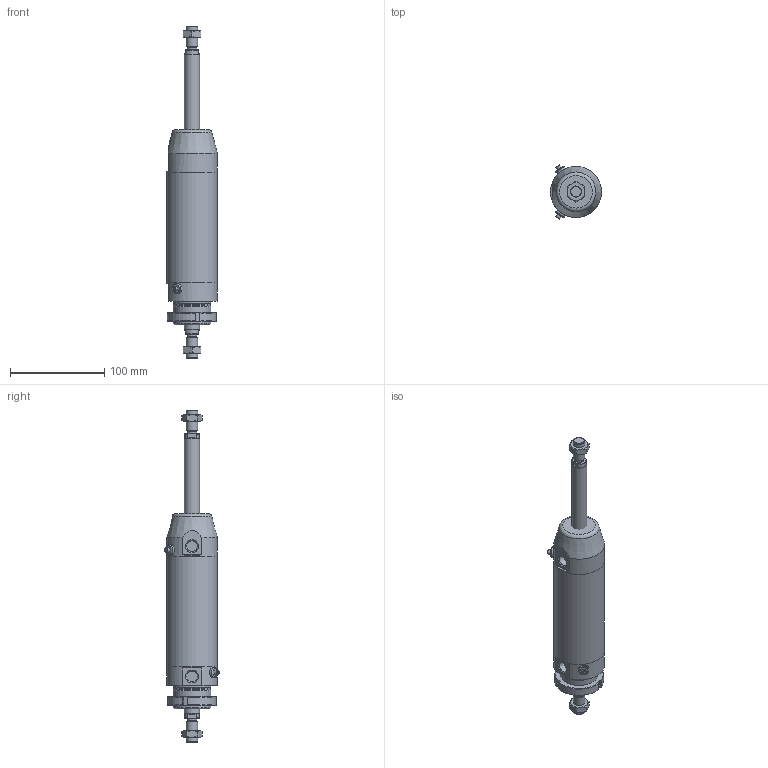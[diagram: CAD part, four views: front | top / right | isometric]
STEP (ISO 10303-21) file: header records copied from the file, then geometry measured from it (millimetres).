
FILE_DESCRIPTION(/* description */ (''),/* implementation_level */ '2;1');
FILE_NAME(/* name */ 'I:\Area Tecnica\Documenti\A-Manieri\_Inventor\12X\12X#T_###_####_#_#\12XDT_050_0075_#_#.stp',/* time_stamp */ '2015-05-13T09:08:52+02:00',/* author */ ('maniean1'),/* organization */ ('Pneumax S.p.A.'),/* preprocessor_version */ 'ST-DEVELOPER v15.2',/* originating_system */ 'Autodesk Inventor 2014',/* authorisation */ '');
FILE_SCHEMA (('AUTOMOTIVE_DESIGN { 1 0 10303 214 3 1 1 }'));
Length unit declared in the file: millimetre
Products named in the file (7): C1250_619-0075; 12X50_606; SP12X50_0075; 12X_50_11; 12X50_614; G12X_050_05; 12XDT_050_0075_#_#
Bounding box: 54 x 57.75 x 352 mm (x, y, z)
Volume: 339131.7 mm3; surface area: 96762.5 mm2
Topology: 7 solids, 7 shells, 125 faces, 280 edges, 180 vertices
Faces by surface type: plane 66, cylinder 30, cone 26, torus 3
Full cylindrical faces by diameter (mm): 5 x2, 10.2 x2, 11 x2, 11.4 x2, 12 x4, 14 x2, 15.6 x2, 16 x2, 38.2 x1, 40 x3, 50 x2, 54 x3
Entity records: 3058 total; most frequent: CARTESIAN_POINT 614, DIRECTION 513, ORIENTED_EDGE 402, AXIS2_PLACEMENT_3D 219, EDGE_CURVE 201, EDGE_LOOP 178, VERTEX_POINT 153, ADVANCED_FACE 114
